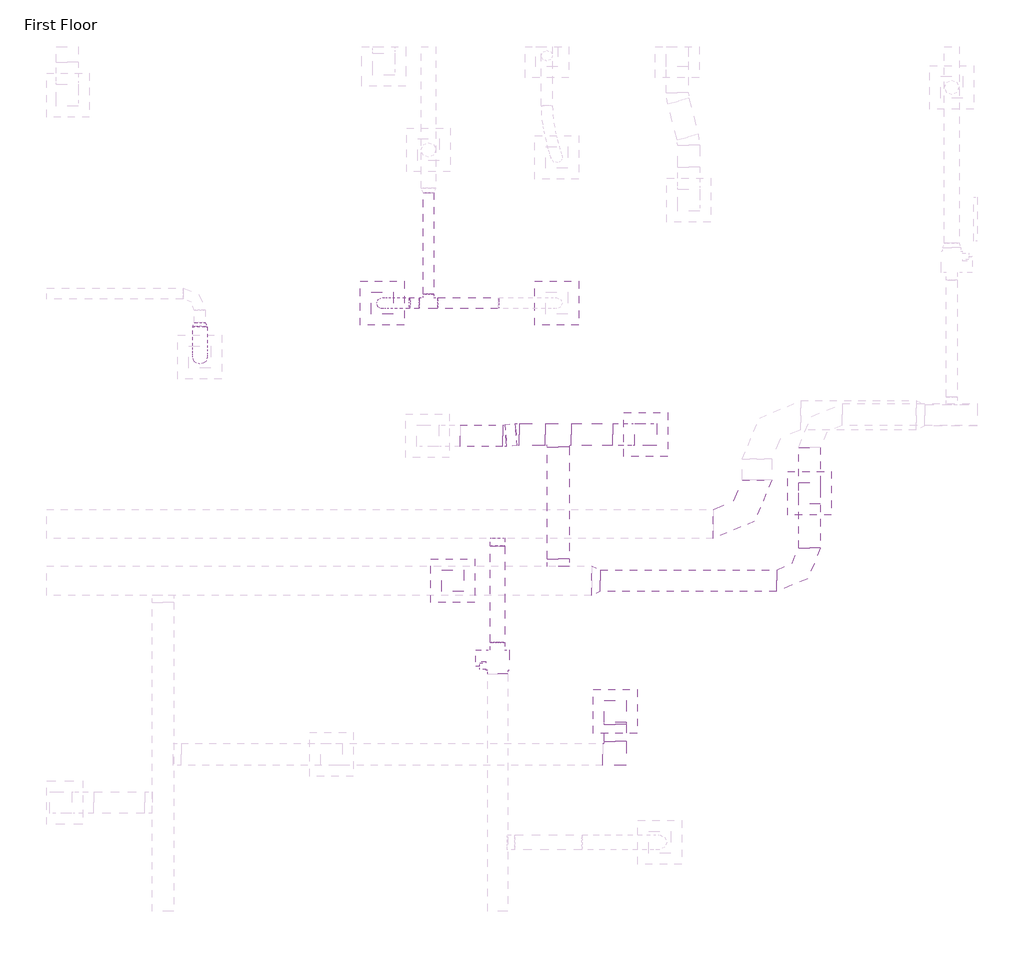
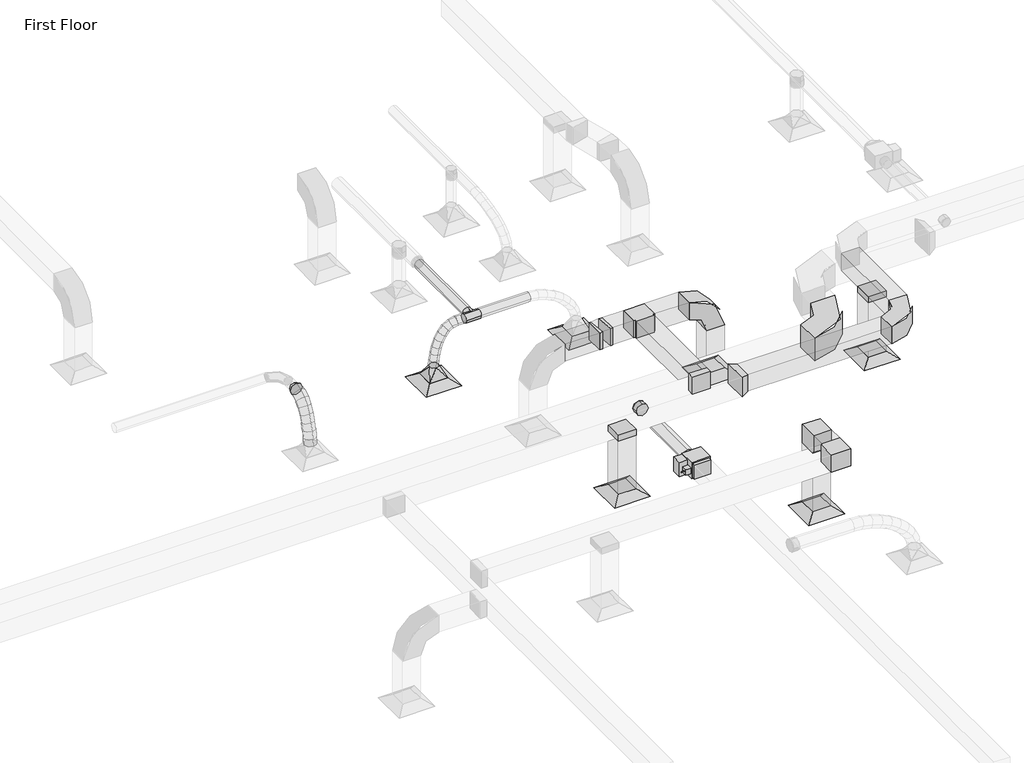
# One storey, part 18 of 61: 18 duct segments, 16 duct fittings, 6 air terminals, 1 proxy.
"""IFC4 building model written with IfcOpenShell, lengths in millimetres."""

from ifc_helpers import new_model, si_unit, point, frame, frame_2d, origin, place, context, project, spatial, polyline, circle_curve, ellipse_curve, trimmed, segment, composite_curve, outline, extrude, transform, mapped, element, save
from ifc_brep_helpers import plane_surface, cylinder_surface, advanced_brep
from components import m_exhaust_grill_er_600_x_600_face_300_x_300_connection_ff221211, m_vav_unit_single_duct_200_mm_f9143229, m_rectangular_elbow_mitered_standard_8eee5933, m_rectangular_elbow_radius_1_5_w_86011e9f, m_rectangular_elbow_radius_1_5_w_2e3e53bc, m_rectangular_elbow_radius_1_5_w_de0ab8f1, m_rectangular_takeoff_standard_c00386d1, m_rectangular_takeoff_standard_b44bfa45, m_rectangular_tee_standard_bf2a2b7f, m_rectangular_transition_angle_45_degree_daf29b35, m_rectangular_to_round_transition_angle_45_degree_8f201c83, m_round_takeoff_standard_2096653f, m_round_tee_standard_034acf2d, m_round_transition_angle_45_degree_3fc7b733

model = new_model("IFC4")

# Units and contexts
model_context = context("Model", 3, world=origin())
ifc_project = project(units=[si_unit("LENGTHUNIT", "METRE", prefix="MILLI")], contexts=[model_context])

# Site, building, storey
site = spatial("IfcSite", under=ifc_project)
building = spatial("IfcBuilding", under=site)
storey = spatial("IfcBuildingStorey", under=building, Name="First Floor", Elevation=0.0)

# Air terminals
placement = place(None, origin())
m_exhaust_grill_er_600_x_600_face_300_x_300_connection_shape = m_exhaust_grill_er_600_x_600_face_300_x_300_connection_ff221211(model_context)
element("IfcAirTerminal", 1, ObjectType="M_Return Register : RR-600 x 600 Face 300 x 300 Connection", at=placement, inside=storey, context=model_context, shape_type="MappedRepresentation", body=[
    mapped(m_exhaust_grill_er_600_x_600_face_300_x_300_connection_shape, transform((-21474.9055852, 8984.9326202, 2680.0), x_axis=(1.0, 0.0, 0.0), y_axis=(0.0, 1.0, 0.0), z_axis=(0.0, 0.0, 1.0))),
])
element("IfcAirTerminal", 2, ObjectType="M_Return Register : RR-600 x 600 Face 300 x 300 Connection", at=placement, inside=storey, context=model_context, shape_type="MappedRepresentation", body=[
    mapped(m_exhaust_grill_er_600_x_600_face_300_x_300_connection_shape, transform((-23700.6404274, 10777.8718477, 2680.0), x_axis=(1.0, 0.0, 0.0), y_axis=(0.0, 1.0, 0.0), z_axis=(0.0, 0.0, 1.0))),
])
element("IfcAirTerminal", 3, ObjectType="M_Return Register : RR-600 x 600 Face 300 x 300 Connection", at=placement, inside=storey, context=model_context, shape_type="MappedRepresentation", body=[
    mapped(m_exhaust_grill_er_600_x_600_face_300_x_300_connection_shape, transform((-18815.882948, 11976.0938982, 2680.0), x_axis=(1.0, 0.0, 0.0), y_axis=(0.0, 1.0, 0.0), z_axis=(0.0, 0.0, 1.0))),
])
element("IfcAirTerminal", 4, ObjectType="M_Return Register : RR-600 x 600 Face 300 x 300 Connection", at=placement, inside=storey, context=model_context, shape_type="MappedRepresentation", body=[
    mapped(m_exhaust_grill_er_600_x_600_face_300_x_300_connection_shape, transform((-21057.7574599, 12781.3592208, 2680.0), x_axis=(1.0, 0.0, 0.0), y_axis=(0.0, 1.0, 0.0), z_axis=(0.0, 0.0, 1.0))),
])
element("IfcAirTerminal", 5, ObjectType="M_Supply Diffuser : SD-600 x 600 Face 300 x 300 Connection", at=placement, inside=storey, context=model_context, shape_type="MappedRepresentation", body=[
    mapped(m_exhaust_grill_er_600_x_600_face_300_x_300_connection_shape, transform((-22276.7081761, 14579.6926206, 2680.0), x_axis=(1.0, 0.0, 0.0), y_axis=(0.0, 1.0, 0.0), z_axis=(0.0, 0.0, 1.0))),
])
element("IfcAirTerminal", 6, ObjectType="M_Supply Diffuser : SD-600 x 600 Face 300 x 300 Connection", at=placement, inside=storey, context=model_context, shape_type="MappedRepresentation", body=[
    mapped(m_exhaust_grill_er_600_x_600_face_300_x_300_connection_shape, transform((-24667.9863708, 14579.6926206, 2680.0), x_axis=(1.0, 0.0, 0.0), y_axis=(0.0, 1.0, 0.0), z_axis=(0.0, 0.0, 1.0))),
])

# Proxy
m_vav_unit_single_duct_200_mm_shape = m_vav_unit_single_duct_200_mm_f9143229(model_context)
element("IfcBuildingElementProxy", 7, Name="M_VAV Unit - Single Duct : 200 mm", ObjectType="M_VAV Unit - Single Duct : 200 mm", at=placement, inside=storey, context=model_context, shape_type="MappedRepresentation", body=[
    mapped(m_vav_unit_single_duct_200_mm_shape, transform((-23088.1633517, 9828.6813015, 3500.05), x_axis=(0.0, -1.0, 0.0), y_axis=(1.0, 0.0, 0.0), z_axis=(0.0, 0.0, 1.0))),
])

# Duct fittings
m_rectangular_elbow_mitered_standard_shape = m_rectangular_elbow_mitered_standard_8eee5933(model_context)
element("IfcDuctFitting", 8, ObjectType="M_Rectangular Elbow - Mitered : Standard", at=placement, inside=storey, context=model_context, shape_type="MappedRepresentation", body=[
    mapped(m_rectangular_elbow_mitered_standard_shape, transform((-21474.9055852, 8984.9326202, 4000.0), x_axis=(0.0, 0.0, 1.0), y_axis=(0.0, -1.0, 0.0), z_axis=(1.0, 0.0, 0.0))),
])
element("IfcDuctFitting", 9, ObjectType="M_Rectangular Elbow - Mitered : Standard", at=placement, inside=storey, context=model_context, shape_type="MappedRepresentation", body=[
    mapped(m_rectangular_elbow_mitered_standard_shape, transform((-21474.9055852, 8398.5997354, 4000.0), x_axis=(1.0, 0.0, 0.0), y_axis=(0.0, 1.0, 0.0), z_axis=(0.0, 0.0, 1.0))),
])
m_rectangular_elbow_radius_1_5_w_shape = m_rectangular_elbow_radius_1_5_w_86011e9f(model_context)
element("IfcDuctFitting", 10, ObjectType="M_Rectangular Elbow - Radius : 1.5 W", at=placement, inside=storey, context=model_context, shape_type="MappedRepresentation", body=[
    mapped(m_rectangular_elbow_radius_1_5_w_shape, transform((-21057.7574599, 12781.3592208, 4000.0), x_axis=(0.0, 0.0, 1.0), y_axis=(-1.0, 0.0, 0.0), z_axis=(0.0, -1.0, 0.0))),
])
element("IfcDuctFitting", 11, ObjectType="M_Rectangular Elbow - Radius : 1.5 W", at=placement, inside=storey, context=model_context, shape_type="MappedRepresentation", body=[
    mapped(m_rectangular_elbow_radius_1_5_w_shape, transform((-18815.882948, 10777.8718477, 4000.0), x_axis=(1.0, 0.0, 0.0), y_axis=(0.0, 1.0, 0.0), z_axis=(0.0, 0.0, 1.0))),
])
m_rectangular_elbow_radius_1_5_w_2_shape = m_rectangular_elbow_radius_1_5_w_2e3e53bc(model_context)
element("IfcDuctFitting", 12, ObjectType="M_Rectangular Elbow - Radius : 1.5 W", at=placement, inside=storey, context=model_context, shape_type="MappedRepresentation", body=[
    mapped(m_rectangular_elbow_radius_1_5_w_2_shape, transform((-19535.3729051, 11555.6774916, 3609.5), x_axis=(1.0, 0.0, 0.0), y_axis=(0.0, 1.0, 0.0), z_axis=(0.0, 0.0, 1.0))),
])
m_rectangular_elbow_radius_1_5_w_3_shape = m_rectangular_elbow_radius_1_5_w_de0ab8f1(model_context)
element("IfcDuctFitting", 13, ObjectType="M_Rectangular Elbow - Radius : 1.5 W", at=placement, inside=storey, context=model_context, shape_type="MappedRepresentation", body=[
    mapped(m_rectangular_elbow_radius_1_5_w_3_shape, transform((-22813.7574599, 12781.3592208, 4000.0), x_axis=(-1.0, 0.0, 0.0), y_axis=(0.0, -1.0, 0.0), z_axis=(0.0, 0.0, 1.0))),
])
element("IfcDuctFitting", 14, ObjectType="M_Rectangular Elbow - Radius : 1.5 W", at=placement, inside=storey, context=model_context, shape_type="MappedRepresentation", body=[
    mapped(m_rectangular_elbow_radius_1_5_w_3_shape, transform((-22997.1293178, 12763.224946, 4000.0), x_axis=(1.0, 0.0, 0.0), y_axis=(0.0, 1.0, 0.0), z_axis=(0.0, 0.0, 1.0))),
])
m_rectangular_takeoff_standard_shape = m_rectangular_takeoff_standard_c00386d1(model_context)
element("IfcDuctFitting", 15, ObjectType="M_Rectangular Takeoff : Standard", at=placement, inside=storey, context=model_context, shape_type="MappedRepresentation", body=[
    mapped(m_rectangular_takeoff_standard_shape, transform((-23700.6404274, 10777.8718477, 3825.0), x_axis=(0.0, 0.0, -1.0), y_axis=(0.0, 1.0, 0.0), z_axis=(1.0, 0.0, 0.0))),
])
element("IfcDuctFitting", 16, ObjectType="M_Rectangular Takeoff : Standard", at=placement, inside=storey, context=model_context, shape_type="MappedRepresentation", body=[
    mapped(m_rectangular_takeoff_standard_shape, transform((-18815.882948, 11976.0938982, 3850.0), x_axis=(0.0, 0.0, -1.0), y_axis=(-1.0, 0.0, 0.0), z_axis=(0.0, 1.0, 0.0))),
])
m_rectangular_takeoff_standard_2_shape = m_rectangular_takeoff_standard_b44bfa45(model_context)
element("IfcDuctFitting", 17, ObjectType="M_Rectangular Takeoff : Standard", at=placement, inside=storey, context=model_context, shape_type="MappedRepresentation", body=[
    mapped(m_rectangular_takeoff_standard_2_shape, transform((-22257.7574599, 10977.8718477, 4000.0), x_axis=(0.0, 1.0, 0.0), y_axis=(1.0, 0.0, 0.0), z_axis=(0.0, 0.0, -1.0))),
])
m_rectangular_tee_standard_shape = m_rectangular_tee_standard_bf2a2b7f(model_context)
element("IfcDuctFitting", 18, ObjectType="M_Rectangular Tee : Standard", at=placement, inside=storey, context=model_context, shape_type="MappedRepresentation", body=[
    mapped(m_rectangular_tee_standard_shape, transform((-22257.7574599, 12781.3592208, 4000.0), x_axis=(1.0, 0.0, 0.0), y_axis=(0.0, 1.0, 0.0), z_axis=(0.0, 0.0, 1.0))),
])
m_rectangular_transition_angle_45_degree_shape = m_rectangular_transition_angle_45_degree_daf29b35(model_context)
element("IfcDuctFitting", 19, ObjectType="M_Rectangular Transition - Angle : 45 Degree", at=placement, inside=storey, context=model_context, shape_type="MappedRepresentation", body=[
    mapped(m_rectangular_transition_angle_45_degree_shape, transform((-21800.1562686, 10777.8718477, 4000.0), x_axis=(1.0, 0.0, 0.0), y_axis=(0.0, 1.0, 0.0), z_axis=(0.0, 0.0, 1.0))),
])
m_rectangular_to_round_transition_angle_45_degree_shape = m_rectangular_to_round_transition_angle_45_degree_8f201c83(model_context)
element("IfcDuctFitting", 20, ObjectType="M_Rectangular to Round Transition - Angle : 45 Degree", at=placement, inside=storey, context=model_context, shape_type="MappedRepresentation", body=[
    mapped(m_rectangular_to_round_transition_angle_45_degree_shape, transform((-24667.9863708, 14579.6926206, 2781.6), x_axis=(0.0, 0.0, 1.0), y_axis=(1.0, 0.0, 0.0), z_axis=(0.0, 1.0, 0.0))),
])
m_round_takeoff_standard_shape = m_round_takeoff_standard_2096653f(model_context)
element("IfcDuctFitting", 21, ObjectType="M_Round Takeoff : Standard", at=placement, inside=storey, context=model_context, shape_type="MappedRepresentation", body=[
    mapped(m_round_takeoff_standard_shape, transform((-23087.5133517, 11355.6774916, 3634.5969238), x_axis=(0.0, -0.9999999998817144, -1.5380865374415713e-05), y_axis=(-0.9999999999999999, 0.0, 0.0), z_axis=(0.0, 1.538086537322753e-05, -0.9999999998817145))),
])
m_round_tee_standard_shape = m_round_tee_standard_034acf2d(model_context)
element("IfcDuctFitting", 22, ObjectType="M_Round Tee : Standard", at=placement, inside=storey, context=model_context, shape_type="MappedRepresentation", body=[
    mapped(m_round_tee_standard_shape, transform((-24034.890372, 14579.6926206, 3619.1), x_axis=(-1.0, 0.0, 0.0), y_axis=(0.0, -1.0, 0.0), z_axis=(0.0, 0.0, 1.0))),
])
m_round_transition_angle_45_degree_shape = m_round_transition_angle_45_degree_3fc7b733(model_context)
element("IfcDuctFitting", 23, ObjectType="M_Round Transition - Angle : 45 Degree", at=placement, inside=storey, context=model_context, shape_type="MappedRepresentation", body=[
    mapped(m_round_transition_angle_45_degree_shape, transform((-27166.0530571, 14311.7643739, 3619.1), x_axis=(0.0, -1.0, 0.0), y_axis=(1.0, 0.0, 0.0), z_axis=(0.0, 0.0, 1.0))),
])

# Duct segments
element("IfcDuctSegment", 24, ObjectType="Flex - Round", at=placement, inside=storey, context=model_context, shape_type="AdvancedBrep", body=[
    advanced_brep(
    [(-24299.890372, 14504.6926206, 3619.1), (-24284.9016136, 14579.6926206, 3545.6130139), (-24299.890372, 14654.6926206, 3619.1), (-24314.8791303, 14579.6926206, 3692.5869861), (-24387.7327541, 14504.6926206, 3601.1832462), (-24358.6908945, 14579.6926206, 3530.5625981), (-24387.7327541, 14654.6926206, 3601.1832462), (-24416.7746137, 14579.6926206, 3671.8038943), (-24667.9863708, 14504.6926206, 2962.6660172), (-24742.8725962, 14579.6926206, 2966.7955752), (-24667.9863708, 14654.6926206, 2962.6660172), (-24593.1001454, 14579.6926206, 2958.5364591), (-24463.2391375, 14504.6926206, 3551.8101121), (-24413.1766817, 14579.6926206, 3494.9346954), (-24463.2391375, 14654.6926206, 3551.8101121), (-24513.3015932, 14579.6926206, 3608.6855288), (-24526.6017525, 14504.6926206, 3477.5462887), (-24464.6752729, 14579.6926206, 3434.5760394), (-24526.6017525, 14654.6926206, 3477.5462887), (-24588.5282321, 14579.6926206, 3520.5165379), (-24578.0128298, 14504.6926206, 3384.957467), (-24509.8218282, 14579.6926206, 3353.2693138), (-24578.0128298, 14654.6926206, 3384.957467), (-24646.2038314, 14579.6926206, 3416.6456202), (-24617.6645997, 14504.6926206, 3280.609338), (-24546.0600501, 14579.6926206, 3257.9043234), (-24617.6645997, 14654.6926206, 3280.609338), (-24689.2691493, 14579.6926206, 3303.3143526), (-24645.7492929, 14504.6926206, 3171.0675927), (-24572.1883123, 14579.6926206, 3155.9934562), (-24645.7492929, 14654.6926206, 3171.0675927), (-24719.3102735, 14579.6926206, 3186.1417292), (-24662.4591398, 14504.6926206, 3062.8979221), (-24587.7757932, 14579.6926206, 3055.089319), (-24662.4591398, 14654.6926206, 3062.8979221), (-24737.1424863, 14579.6926206, 3070.7065252)],
    [
        (0, 1, circle_curve(frame((-24299.890372, 14579.6926206, 3619.1), z_axis=(0.9798264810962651, 0.0, 0.19985011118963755), x_axis=(0.0, -1.0, 0.0)), 75.0)),
        (1, 2, circle_curve(frame((-24299.890372, 14579.6926206, 3619.1), z_axis=(0.9798264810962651, 0.0, 0.19985011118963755), x_axis=(0.0, -1.0, 0.0)), 75.0)),
        (2, 3, circle_curve(frame((-24299.890372, 14579.6926206, 3619.1), z_axis=(0.9798264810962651, 0.0, 0.19985011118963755), x_axis=(0.0, -1.0, 0.0)), 75.0)),
        (3, 0, circle_curve(frame((-24299.890372, 14579.6926206, 3619.1), z_axis=(0.9798264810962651, 0.0, 0.19985011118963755), x_axis=(0.0, -1.0, 0.0)), 75.0)),
        (0, 4),
        (4, 5, ellipse_curve(frame((-24387.7327541, 14579.6926206, 3601.1832462), z_axis=(0.9248496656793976, 0.0, 0.3803328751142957), x_axis=(0.38033287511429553, 0.0, -0.9248496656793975)), 76.3590568, 75.0)),
        (5, 1),
        (5, 6, ellipse_curve(frame((-24387.7327541, 14579.6926206, 3601.1832462), z_axis=(0.9248496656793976, 0.0, 0.3803328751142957), x_axis=(0.38033287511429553, 0.0, -0.9248496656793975)), 76.3590568, 75.0)),
        (6, 2),
        (6, 7, ellipse_curve(frame((-24387.7327541, 14579.6926206, 3601.1832462), z_axis=(0.9248496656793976, 0.0, 0.3803328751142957), x_axis=(0.38033287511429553, 0.0, -0.9248496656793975)), 76.3590568, 75.0)),
        (7, 3),
        (7, 4, ellipse_curve(frame((-24387.7327541, 14579.6926206, 3601.1832462), z_axis=(0.9248496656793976, 0.0, 0.3803328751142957), x_axis=(0.38033287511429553, 0.0, -0.9248496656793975)), 76.3590568, 75.0)),
        (8, 9, circle_curve(frame((-24667.9863708, 14579.6926206, 2962.6660172), z_axis=(-0.055060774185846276, 0.0, -0.9984830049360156), x_axis=(0.0, -1.0, 0.0)), 75.0)),
        (9, 10, circle_curve(frame((-24667.9863708, 14579.6926206, 2962.6660172), z_axis=(-0.055060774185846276, 0.0, -0.9984830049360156), x_axis=(0.0, -1.0, 0.0)), 75.0)),
        (10, 11, circle_curve(frame((-24667.9863708, 14579.6926206, 2962.6660172), z_axis=(-0.055060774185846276, 0.0, -0.9984830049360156), x_axis=(0.0, -1.0, 0.0)), 75.0)),
        (11, 8, circle_curve(frame((-24667.9863708, 14579.6926206, 2962.6660172), z_axis=(-0.055060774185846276, 0.0, -0.9984830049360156), x_axis=(0.0, -1.0, 0.0)), 75.0)),
        (4, 12),
        (12, 13, ellipse_curve(frame((-24463.2391375, 14579.6926206, 3551.8101121), z_axis=(0.7506343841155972, 0.0, 0.6607178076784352), x_axis=(0.6607178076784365, 0.0, -0.7506343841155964)), 75.7697994, 75.0)),
        (13, 5),
        (13, 14, ellipse_curve(frame((-24463.2391375, 14579.6926206, 3551.8101121), z_axis=(0.7506343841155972, 0.0, 0.6607178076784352), x_axis=(0.6607178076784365, 0.0, -0.7506343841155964)), 75.7697994, 75.0)),
        (14, 6),
        (14, 15, ellipse_curve(frame((-24463.2391375, 14579.6926206, 3551.8101121), z_axis=(0.7506343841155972, 0.0, 0.6607178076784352), x_axis=(0.6607178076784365, 0.0, -0.7506343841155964)), 75.7697994, 75.0)),
        (15, 7),
        (15, 12, ellipse_curve(frame((-24463.2391375, 14579.6926206, 3551.8101121), z_axis=(0.7506343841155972, 0.0, 0.6607178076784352), x_axis=(0.6607178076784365, 0.0, -0.7506343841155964)), 75.7697994, 75.0)),
        (12, 16),
        (16, 17, ellipse_curve(frame((-24526.6017525, 14579.6926206, 3477.5462887), z_axis=(0.5700892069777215, 0.0, 0.8215827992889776), x_axis=(0.8215827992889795, 0.0, -0.570089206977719)), 75.3746058, 75.0)),
        (17, 13),
        (17, 18, ellipse_curve(frame((-24526.6017525, 14579.6926206, 3477.5462887), z_axis=(0.5700892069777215, 0.0, 0.8215827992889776), x_axis=(0.8215827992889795, 0.0, -0.570089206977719)), 75.3746058, 75.0)),
        (18, 14),
        (18, 19, ellipse_curve(frame((-24526.6017525, 14579.6926206, 3477.5462887), z_axis=(0.5700892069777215, 0.0, 0.8215827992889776), x_axis=(0.8215827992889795, 0.0, -0.570089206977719)), 75.3746058, 75.0)),
        (19, 15),
        (19, 16, ellipse_curve(frame((-24526.6017525, 14579.6926206, 3477.5462887), z_axis=(0.5700892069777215, 0.0, 0.8215827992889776), x_axis=(0.8215827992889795, 0.0, -0.570089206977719)), 75.3746058, 75.0)),
        (16, 20),
        (20, 21, ellipse_curve(frame((-24578.0128298, 14579.6926206, 3384.957467), z_axis=(0.42141811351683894, 0.0, 0.9068664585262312), x_axis=(0.9068664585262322, 0.0, -0.42141811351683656)), 75.1940939, 75.0)),
        (21, 17),
        (21, 22, ellipse_curve(frame((-24578.0128298, 14579.6926206, 3384.957467), z_axis=(0.42141811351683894, 0.0, 0.9068664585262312), x_axis=(0.9068664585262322, 0.0, -0.42141811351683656)), 75.1940939, 75.0)),
        (22, 18),
        (22, 23, ellipse_curve(frame((-24578.0128298, 14579.6926206, 3384.957467), z_axis=(0.42141811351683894, 0.0, 0.9068664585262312), x_axis=(0.9068664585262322, 0.0, -0.42141811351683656)), 75.1940939, 75.0)),
        (23, 19),
        (23, 20, ellipse_curve(frame((-24578.0128298, 14579.6926206, 3384.957467), z_axis=(0.42141811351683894, 0.0, 0.9068664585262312), x_axis=(0.9068664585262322, 0.0, -0.42141811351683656)), 75.1940939, 75.0)),
        (20, 24),
        (24, 25, ellipse_curve(frame((-24617.6645997, 14579.6926206, 3280.609338), z_axis=(0.30225756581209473, 0.0, 0.9532262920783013), x_axis=(0.9532262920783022, 0.0, -0.3022575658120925)), 75.1181018, 75.0)),
        (25, 21),
        (25, 26, ellipse_curve(frame((-24617.6645997, 14579.6926206, 3280.609338), z_axis=(0.30225756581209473, 0.0, 0.9532262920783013), x_axis=(0.9532262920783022, 0.0, -0.3022575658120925)), 75.1181018, 75.0)),
        (26, 22),
        (26, 27, ellipse_curve(frame((-24617.6645997, 14579.6926206, 3280.609338), z_axis=(0.30225756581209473, 0.0, 0.9532262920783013), x_axis=(0.9532262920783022, 0.0, -0.3022575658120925)), 75.1181018, 75.0)),
        (27, 23),
        (27, 24, ellipse_curve(frame((-24617.6645997, 14579.6926206, 3280.609338), z_axis=(0.30225756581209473, 0.0, 0.9532262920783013), x_axis=(0.9532262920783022, 0.0, -0.3022575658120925)), 75.1181018, 75.0)),
        (24, 28),
        (28, 29, ellipse_curve(frame((-24645.7492929, 14579.6926206, 3171.0675927), z_axis=(0.2007486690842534, 0.0, 0.9796427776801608), x_axis=(0.9796427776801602, 0.0, -0.20074866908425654)), 75.0895962, 75.0)),
        (29, 25),
        (29, 30, ellipse_curve(frame((-24645.7492929, 14579.6926206, 3171.0675927), z_axis=(0.2007486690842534, 0.0, 0.9796427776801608), x_axis=(0.9796427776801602, 0.0, -0.20074866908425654)), 75.0895962, 75.0)),
        (30, 26),
        (30, 31, ellipse_curve(frame((-24645.7492929, 14579.6926206, 3171.0675927), z_axis=(0.2007486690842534, 0.0, 0.9796427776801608), x_axis=(0.9796427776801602, 0.0, -0.20074866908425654)), 75.0895962, 75.0)),
        (31, 27),
        (31, 28, ellipse_curve(frame((-24645.7492929, 14579.6926206, 3171.0675927), z_axis=(0.2007486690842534, 0.0, 0.9796427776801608), x_axis=(0.9796427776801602, 0.0, -0.20074866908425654)), 75.0895962, 75.0)),
        (28, 32),
        (32, 33, ellipse_curve(frame((-24662.4591398, 14579.6926206, 3062.8979221), z_axis=(0.10398928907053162, 0.0, 0.994578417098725), x_axis=(0.994578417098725, 0.0, -0.10398928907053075)), 75.0904557, 75.0)),
        (33, 29),
        (33, 34, ellipse_curve(frame((-24662.4591398, 14579.6926206, 3062.8979221), z_axis=(0.10398928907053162, 0.0, 0.994578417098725), x_axis=(0.994578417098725, 0.0, -0.10398928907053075)), 75.0904557, 75.0)),
        (34, 30),
        (34, 35, ellipse_curve(frame((-24662.4591398, 14579.6926206, 3062.8979221), z_axis=(0.10398928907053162, 0.0, 0.994578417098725), x_axis=(0.994578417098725, 0.0, -0.10398928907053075)), 75.0904557, 75.0)),
        (35, 31),
        (35, 32, ellipse_curve(frame((-24662.4591398, 14579.6926206, 3062.8979221), z_axis=(0.10398928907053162, 0.0, 0.994578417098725), x_axis=(0.994578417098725, 0.0, -0.10398928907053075)), 75.0904557, 75.0)),
        (32, 8),
        (11, 33),
        (10, 34),
        (9, 35),
    ],
    [
        plane_surface(frame((-24299.890372, 14654.6926206, 3619.1), z_axis=(0.979826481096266, 0.0, 0.19985011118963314), x_axis=(0.19985011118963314, 0.0, -0.979826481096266))),
        cylinder_surface(frame((-24299.890372, 14579.6926206, 3619.1), z_axis=(0.9798264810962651, 0.0, 0.19985011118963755), x_axis=(0.0, -1.0, 0.0)), 75.0),
        plane_surface(frame((-24667.9863708, 14654.6926206, 2962.6660172), z_axis=(-0.055060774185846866, 0.0, -0.9984830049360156), x_axis=(0.9984830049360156, 0.0, -0.055060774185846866))),
        cylinder_surface(frame((-24387.7327541, 14579.6926206, 3601.1832462), z_axis=(0.8369514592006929, 0.0, 0.5472771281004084), x_axis=(0.0, -1.0, 0.0)), 75.0),
        cylinder_surface(frame((-24463.2391375, 14579.6926206, 3551.8101121), z_axis=(0.6490648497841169, 0.0, 0.760733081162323), x_axis=(0.0, -1.0, 0.0)), 75.0),
        cylinder_surface(frame((-24526.6017525, 14579.6926206, 3477.5462887), z_axis=(0.4854469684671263, 0.0, 0.8742661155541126), x_axis=(0.0, -1.0, 0.0)), 75.0),
        cylinder_surface(frame((-24578.0128298, 14579.6926206, 3384.957467), z_axis=(0.3552136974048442, 0.0, 0.9347851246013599), x_axis=(0.0, -1.0, 0.0)), 75.0),
        cylinder_surface(frame((-24617.6645997, 14579.6926206, 3280.609338), z_axis=(0.2483510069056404, 0.0, 0.9686701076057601), x_axis=(0.0, -1.0, 0.0)), 75.0),
        cylinder_surface(frame((-24645.7492929, 14579.6926206, 3171.0675927), z_axis=(0.1526672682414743, 0.0, 0.9882776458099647), x_axis=(0.0, -1.0, 0.0)), 75.0),
        cylinder_surface(frame((-24662.4591398, 14579.6926206, 3062.8979221), z_axis=(0.055060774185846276, 0.0, 0.9984830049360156), x_axis=(0.0, -1.0, 0.0)), 75.0),
    ],
    [
        (0, [[1, 2, 3, 4]]),
        (1, [[-1, 5, 6, 7]]),
        (1, [[-2, -7, 8, 9]]),
        (1, [[-3, -9, 10, 11]]),
        (1, [[-4, -11, 12, -5]]),
        (2, [[13, 14, 15, 16]]),
        (3, [[-6, 17, 18, 19]]),
        (3, [[-8, -19, 20, 21]]),
        (3, [[-10, -21, 22, 23]]),
        (3, [[-12, -23, 24, -17]]),
        (4, [[-18, 25, 26, 27]]),
        (4, [[-20, -27, 28, 29]]),
        (4, [[-22, -29, 30, 31]]),
        (4, [[-24, -31, 32, -25]]),
        (5, [[-26, 33, 34, 35]]),
        (5, [[-28, -35, 36, 37]]),
        (5, [[-30, -37, 38, 39]]),
        (5, [[-32, -39, 40, -33]]),
        (6, [[-34, 41, 42, 43]]),
        (6, [[-36, -43, 44, 45]]),
        (6, [[-38, -45, 46, 47]]),
        (6, [[-40, -47, 48, -41]]),
        (7, [[-42, 49, 50, 51]]),
        (7, [[-44, -51, 52, 53]]),
        (7, [[-46, -53, 54, 55]]),
        (7, [[-48, -55, 56, -49]]),
        (8, [[-50, 57, 58, 59]]),
        (8, [[-52, -59, 60, 61]]),
        (8, [[-54, -61, 62, 63]]),
        (8, [[-56, -63, 64, -57]]),
        (9, [[-58, 65, -16, 66]]),
        (9, [[-60, -66, -15, 67]]),
        (9, [[-62, -67, -14, 68]]),
        (9, [[-64, -68, -13, -65]]),
    ],
),
])
element("IfcDuctSegment", 25, ObjectType="Flex - Round", at=placement, inside=storey, context=model_context, shape_type="AdvancedBrep", body=[
    advanced_brep(
    [(-27066.0530571, 14251.4090348, 3619.1), (-27166.0530571, 14271.2382666, 3521.0857073), (-27266.0530571, 14251.4090348, 3619.1), (-27166.0530571, 14231.579803, 3717.1142927), (-27066.0530571, 14154.9169021, 3599.5787158), (-27166.0530571, 14193.2843814, 3505.3148884), (-27266.0530571, 14154.9169021, 3599.5787158), (-27166.0530571, 14116.5494228, 3693.8425431), (-27066.0530571, 13843.104531, 2902.3106781), (-27166.0530571, 13743.2671283, 2908.0109427), (-27266.0530571, 13843.104531, 2902.3106781), (-27166.0530571, 13942.9419337, 2896.6104135), (-27066.0530571, 14071.6065276, 3545.7699779), (-27166.0530571, 14137.8207012, 3469.4918514), (-27266.0530571, 14071.6065276, 3545.7699779), (-27166.0530571, 14005.392354, 3622.0481045), (-27066.0530571, 14001.3804707, 3464.8064589), (-27166.0530571, 14083.4587778, 3406.8180689), (-27266.0530571, 14001.3804707, 3464.8064589), (-27166.0530571, 13919.3021636, 3522.7948489), (-27066.0530571, 13944.1412909, 3363.820831), (-27166.0530571, 14034.7014488, 3320.7967545), (-27266.0530571, 13944.1412909, 3363.820831), (-27166.0530571, 13853.581133, 3406.8449075), (-27066.0530571, 13899.7915476, 3249.9457666), (-27166.0530571, 13995.0352392, 3218.9474124), (-27266.0530571, 13899.7915476, 3249.9457666), (-27166.0530571, 13804.547856, 3280.9441209), (-27066.0530571, 13868.2338002, 3130.3139381), (-27166.0530571, 13966.1992003, 3109.6332712), (-27266.0530571, 13868.2338002, 3130.3139381), (-27166.0530571, 13770.2684001, 3150.994605), (-27066.0530571, 13849.3706082, 3012.0580178), (-27166.0530571, 13948.919487, 3001.3043941), (-27266.0530571, 13849.3706082, 3012.0580178), (-27166.0530571, 13749.8217294, 3022.8116415)],
    [
        (0, 1, circle_curve(frame((-27166.0530571, 14251.4090348, 3619.1), z_axis=(0.0, 0.9801429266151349, 0.19829231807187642), x_axis=(1.0, 0.0, 0.0)), 100.0)),
        (1, 2, circle_curve(frame((-27166.0530571, 14251.4090348, 3619.1), z_axis=(0.0, 0.9801429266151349, 0.19829231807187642), x_axis=(1.0, 0.0, 0.0)), 100.0)),
        (2, 3, circle_curve(frame((-27166.0530571, 14251.4090348, 3619.1), z_axis=(0.0, 0.9801429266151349, 0.19829231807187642), x_axis=(1.0, 0.0, 0.0)), 100.0)),
        (3, 0, circle_curve(frame((-27166.0530571, 14251.4090348, 3619.1), z_axis=(0.0, 0.9801429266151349, 0.19829231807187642), x_axis=(1.0, 0.0, 0.0)), 100.0)),
        (0, 4),
        (4, 5, ellipse_curve(frame((-27166.0530571, 14154.9169021, 3599.5787158), z_axis=(0.0, 0.9262169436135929, 0.37699094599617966), x_axis=(0.0, 0.37699094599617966, -0.9262169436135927)), 101.7729464, 100.0)),
        (5, 1),
        (5, 6, ellipse_curve(frame((-27166.0530571, 14154.9169021, 3599.5787158), z_axis=(0.0, 0.9262169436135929, 0.37699094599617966), x_axis=(0.0, 0.37699094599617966, -0.9262169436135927)), 101.7729464, 100.0)),
        (6, 2),
        (6, 7, ellipse_curve(frame((-27166.0530571, 14154.9169021, 3599.5787158), z_axis=(0.0, 0.9262169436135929, 0.37699094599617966), x_axis=(0.0, 0.37699094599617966, -0.9262169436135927)), 101.7729464, 100.0)),
        (7, 3),
        (7, 4, ellipse_curve(frame((-27166.0530571, 14154.9169021, 3599.5787158), z_axis=(0.0, 0.9262169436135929, 0.37699094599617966), x_axis=(0.0, 0.37699094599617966, -0.9262169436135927)), 101.7729464, 100.0)),
        (8, 9, circle_curve(frame((-27166.0530571, 13843.104531, 2902.3106781), z_axis=(0.0, -0.05700264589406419, -0.9983740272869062), x_axis=(1.0, 0.0, 0.0)), 100.0)),
        (9, 10, circle_curve(frame((-27166.0530571, 13843.104531, 2902.3106781), z_axis=(0.0, -0.05700264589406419, -0.9983740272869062), x_axis=(1.0, 0.0, 0.0)), 100.0)),
        (10, 11, circle_curve(frame((-27166.0530571, 13843.104531, 2902.3106781), z_axis=(0.0, -0.05700264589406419, -0.9983740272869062), x_axis=(1.0, 0.0, 0.0)), 100.0)),
        (11, 8, circle_curve(frame((-27166.0530571, 13843.104531, 2902.3106781), z_axis=(0.0, -0.05700264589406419, -0.9983740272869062), x_axis=(1.0, 0.0, 0.0)), 100.0)),
        (4, 12),
        (12, 13, ellipse_curve(frame((-27166.0530571, 14071.6065276, 3545.7699779), z_axis=(0.0, 0.7551671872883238, 0.6555322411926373), x_axis=(0.0, 0.6555322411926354, -0.7551671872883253)), 101.0082639, 100.0)),
        (13, 5),
        (13, 14, ellipse_curve(frame((-27166.0530571, 14071.6065276, 3545.7699779), z_axis=(0.0, 0.7551671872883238, 0.6555322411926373), x_axis=(0.0, 0.6555322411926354, -0.7551671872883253)), 101.0082639, 100.0)),
        (14, 6),
        (14, 15, ellipse_curve(frame((-27166.0530571, 14071.6065276, 3545.7699779), z_axis=(0.0, 0.7551671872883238, 0.6555322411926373), x_axis=(0.0, 0.6555322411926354, -0.7551671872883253)), 101.0082639, 100.0)),
        (15, 7),
        (15, 12, ellipse_curve(frame((-27166.0530571, 14071.6065276, 3545.7699779), z_axis=(0.0, 0.7551671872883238, 0.6555322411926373), x_axis=(0.0, 0.6555322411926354, -0.7551671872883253)), 101.0082639, 100.0)),
        (12, 16),
        (16, 17, ellipse_curve(frame((-27166.0530571, 14001.3804707, 3464.8064589), z_axis=(0.0, 0.5770202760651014, 0.8167298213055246), x_axis=(0.0, 0.8167298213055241, -0.5770202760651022)), 100.4962779, 100.0)),
        (17, 13),
        (17, 18, ellipse_curve(frame((-27166.0530571, 14001.3804707, 3464.8064589), z_axis=(0.0, 0.5770202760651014, 0.8167298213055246), x_axis=(0.0, 0.8167298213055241, -0.5770202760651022)), 100.4962779, 100.0)),
        (18, 14),
        (18, 19, ellipse_curve(frame((-27166.0530571, 14001.3804707, 3464.8064589), z_axis=(0.0, 0.5770202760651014, 0.8167298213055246), x_axis=(0.0, 0.8167298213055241, -0.5770202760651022)), 100.4962779, 100.0)),
        (19, 15),
        (19, 16, ellipse_curve(frame((-27166.0530571, 14001.3804707, 3464.8064589), z_axis=(0.0, 0.5770202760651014, 0.8167298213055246), x_axis=(0.0, 0.8167298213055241, -0.5770202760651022)), 100.4962779, 100.0)),
        (16, 20),
        (20, 21, ellipse_curve(frame((-27166.0530571, 13944.1412909, 3363.820831), z_axis=(0.0, 0.4291219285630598, 0.9032465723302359), x_axis=(0.0, 0.9032465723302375, -0.42912192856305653)), 100.2607269, 100.0)),
        (21, 17),
        (21, 22, ellipse_curve(frame((-27166.0530571, 13944.1412909, 3363.820831), z_axis=(0.0, 0.4291219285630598, 0.9032465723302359), x_axis=(0.0, 0.9032465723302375, -0.42912192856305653)), 100.2607269, 100.0)),
        (22, 18),
        (22, 23, ellipse_curve(frame((-27166.0530571, 13944.1412909, 3363.820831), z_axis=(0.0, 0.4291219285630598, 0.9032465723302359), x_axis=(0.0, 0.9032465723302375, -0.42912192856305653)), 100.2607269, 100.0)),
        (23, 19),
        (23, 20, ellipse_curve(frame((-27166.0530571, 13944.1412909, 3363.820831), z_axis=(0.0, 0.4291219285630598, 0.9032465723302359), x_axis=(0.0, 0.9032465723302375, -0.42912192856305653)), 100.2607269, 100.0)),
        (20, 24),
        (24, 25, ellipse_curve(frame((-27166.0530571, 13899.7915476, 3249.9457666), z_axis=(0.0, 0.309484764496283, 0.9509044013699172), x_axis=(0.0, 0.9509044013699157, -0.30948476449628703)), 100.1611639, 100.0)),
        (25, 21),
        (25, 26, ellipse_curve(frame((-27166.0530571, 13899.7915476, 3249.9457666), z_axis=(0.0, 0.309484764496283, 0.9509044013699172), x_axis=(0.0, 0.9509044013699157, -0.30948476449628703)), 100.1611639, 100.0)),
        (26, 22),
        (26, 27, ellipse_curve(frame((-27166.0530571, 13899.7915476, 3249.9457666), z_axis=(0.0, 0.309484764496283, 0.9509044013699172), x_axis=(0.0, 0.9509044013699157, -0.30948476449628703)), 100.1611639, 100.0)),
        (27, 23),
        (27, 24, ellipse_curve(frame((-27166.0530571, 13899.7915476, 3249.9457666), z_axis=(0.0, 0.309484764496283, 0.9509044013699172), x_axis=(0.0, 0.9509044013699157, -0.30948476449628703)), 100.1611639, 100.0)),
        (24, 28),
        (28, 29, ellipse_curve(frame((-27166.0530571, 13868.2338002, 3130.3139381), z_axis=(0.0, 0.20654957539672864, 0.9784361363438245), x_axis=(0.0, 0.9784361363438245, -0.20654957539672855)), 100.1244706, 100.0)),
        (29, 25),
        (29, 30, ellipse_curve(frame((-27166.0530571, 13868.2338002, 3130.3139381), z_axis=(0.0, 0.20654957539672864, 0.9784361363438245), x_axis=(0.0, 0.9784361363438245, -0.20654957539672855)), 100.1244706, 100.0)),
        (30, 26),
        (30, 31, ellipse_curve(frame((-27166.0530571, 13868.2338002, 3130.3139381), z_axis=(0.0, 0.20654957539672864, 0.9784361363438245), x_axis=(0.0, 0.9784361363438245, -0.20654957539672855)), 100.1244706, 100.0)),
        (31, 27),
        (31, 28, ellipse_curve(frame((-27166.0530571, 13868.2338002, 3130.3139381), z_axis=(0.0, 0.20654957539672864, 0.9784361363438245), x_axis=(0.0, 0.9784361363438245, -0.20654957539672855)), 100.1244706, 100.0)),
        (28, 32),
        (32, 33, ellipse_curve(frame((-27166.0530571, 13849.3706082, 3012.0580178), z_axis=(0.0, 0.10739874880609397, 0.9942160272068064), x_axis=(0.0, 0.9942160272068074, -0.10739874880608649)), 100.1280165, 100.0)),
        (33, 29),
        (33, 34, ellipse_curve(frame((-27166.0530571, 13849.3706082, 3012.0580178), z_axis=(0.0, 0.10739874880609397, 0.9942160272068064), x_axis=(0.0, 0.9942160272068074, -0.10739874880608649)), 100.1280165, 100.0)),
        (34, 30),
        (34, 35, ellipse_curve(frame((-27166.0530571, 13849.3706082, 3012.0580178), z_axis=(0.0, 0.10739874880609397, 0.9942160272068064), x_axis=(0.0, 0.9942160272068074, -0.10739874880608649)), 100.1280165, 100.0)),
        (35, 31),
        (35, 32, ellipse_curve(frame((-27166.0530571, 13849.3706082, 3012.0580178), z_axis=(0.0, 0.10739874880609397, 0.9942160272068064), x_axis=(0.0, 0.9942160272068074, -0.10739874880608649)), 100.1280165, 100.0)),
        (32, 8),
        (11, 33),
        (10, 34),
        (9, 35),
    ],
    [
        plane_surface(frame((-27166.0530571, 14271.2382666, 3521.0857073), z_axis=(0.0, 0.980142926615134, 0.19829231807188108), x_axis=(1.0, 0.0, 0.0))),
        cylinder_surface(frame((-27166.0530571, 14251.4090348, 3619.1), z_axis=(0.0, 0.9801429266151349, 0.19829231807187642), x_axis=(1.0, 0.0, 0.0)), 100.0),
        plane_surface(frame((-27166.0530571, 13942.9419337, 2896.6104135), z_axis=(0.0, -0.05700264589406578, -0.998374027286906), x_axis=(1.0, 0.0, 0.0))),
        cylinder_surface(frame((-27166.0530571, 14154.9169021, 3599.5787158), z_axis=(0.0, 0.8400204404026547, 0.5425547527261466), x_axis=(1.0, 0.0, 0.0)), 100.0),
        cylinder_surface(frame((-27166.0530571, 14071.6065276, 3545.7699779), z_axis=(0.0, 0.6552377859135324, 0.7554226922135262), x_axis=(1.0, 0.0, 0.0)), 100.0),
        cylinder_surface(frame((-27166.0530571, 14001.3804707, 3464.8064589), z_axis=(0.0, 0.49310380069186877, 0.8699704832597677), x_axis=(1.0, 0.0, 0.0)), 100.0),
        cylinder_surface(frame((-27166.0530571, 13944.1412909, 3363.820831), z_axis=(0.0, 0.3629082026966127, 0.9318248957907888), x_axis=(1.0, 0.0, 0.0)), 100.0),
        cylinder_surface(frame((-27166.0530571, 13899.7915476, 3249.9457666), z_axis=(0.0, 0.2550653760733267, 0.9669238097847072), x_axis=(1.0, 0.0, 0.0)), 100.0),
        cylinder_surface(frame((-27166.0530571, 13868.2338002, 3130.3139381), z_axis=(0.0, 0.1575202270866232, 0.9875157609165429), x_axis=(1.0, 0.0, 0.0)), 100.0),
        cylinder_surface(frame((-27166.0530571, 13849.3706082, 3012.0580178), z_axis=(0.0, 0.05700264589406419, 0.9983740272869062), x_axis=(1.0, 0.0, 0.0)), 100.0),
    ],
    [
        (0, [[1, 2, 3, 4]]),
        (1, [[-1, 5, 6, 7]]),
        (1, [[-2, -7, 8, 9]]),
        (1, [[-3, -9, 10, 11]]),
        (1, [[-4, -11, 12, -5]]),
        (2, [[13, 14, 15, 16]]),
        (3, [[-6, 17, 18, 19]]),
        (3, [[-8, -19, 20, 21]]),
        (3, [[-10, -21, 22, 23]]),
        (3, [[-12, -23, 24, -17]]),
        (4, [[-18, 25, 26, 27]]),
        (4, [[-20, -27, 28, 29]]),
        (4, [[-22, -29, 30, 31]]),
        (4, [[-24, -31, 32, -25]]),
        (5, [[-26, 33, 34, 35]]),
        (5, [[-28, -35, 36, 37]]),
        (5, [[-30, -37, 38, 39]]),
        (5, [[-32, -39, 40, -33]]),
        (6, [[-34, 41, 42, 43]]),
        (6, [[-36, -43, 44, 45]]),
        (6, [[-38, -45, 46, 47]]),
        (6, [[-40, -47, 48, -41]]),
        (7, [[-42, 49, 50, 51]]),
        (7, [[-44, -51, 52, 53]]),
        (7, [[-46, -53, 54, 55]]),
        (7, [[-48, -55, 56, -49]]),
        (8, [[-50, 57, 58, 59]]),
        (8, [[-52, -59, 60, 61]]),
        (8, [[-54, -61, 62, 63]]),
        (8, [[-56, -63, 64, -57]]),
        (9, [[-58, 65, -16, 66]]),
        (9, [[-60, -66, -15, 67]]),
        (9, [[-62, -67, -14, 68]]),
        (9, [[-64, -68, -13, -65]]),
    ],
),
])
element("IfcDuctSegment", 26, ObjectType="Mitered Elbows / Taps", at=placement, inside=storey, context=model_context, shape_type="SweptSolid", body=[
    extrude(outline(polyline([(-21624.9055852, 8809.9326202), (-21324.9055852, 8809.9326202), (-21324.9055852, 8573.5997354), (-21624.9055852, 8573.5997354), (-21624.9055852, 8809.9326202)])), frame((0.0, 0.0, 3850.0), z_axis=(0.0, 0.0, 1.0), x_axis=(1.0, 0.0, 0.0)), (0.0, 0.0, 1.0), 300.0),
])
element("IfcDuctSegment", 27, ObjectType="Mitered Elbows / Taps", at=placement, inside=storey, context=model_context, shape_type="SweptSolid", body=[
    extrude(outline(polyline([(-21324.9055852, 8834.9326202), (-21624.9055852, 8834.9326202), (-21624.9055852, 9134.9326202), (-21324.9055852, 9134.9326202), (-21324.9055852, 8834.9326202)])), frame((0.0, 0.0, 2781.6), z_axis=(0.0, 0.0, 1.0), x_axis=(1.0, 0.0, 0.0)), (0.0, 0.0, 1.0), 1043.4),
])
element("IfcDuctSegment", 28, ObjectType="Radius Elbows / Taps", at=placement, inside=storey, context=model_context, shape_type="SweptSolid", body=[
    extrude(outline(polyline([(-23850.6404274, 10627.8718477), (-23850.6404274, 10927.8718477), (-23550.6404274, 10927.8718477), (-23550.6404274, 10627.8718477), (-23850.6404274, 10627.8718477)])), frame((0.0, 0.0, 2781.6), z_axis=(0.0, 0.0, 1.0), x_axis=(1.0, 0.0, 0.0)), (0.0, 0.0, 1.0), 943.4),
])
element("IfcDuctSegment", 29, ObjectType="Radius Elbows / Taps", at=placement, inside=storey, context=model_context, shape_type="SweptSolid", body=[
    extrude(outline(polyline([(-21507.7574599, 12931.3592208), (-21507.7574599, 12631.3592208), (-22082.7574599, 12631.3592208), (-22082.7574599, 12931.3592208), (-21507.7574599, 12931.3592208)])), frame((0.0, 0.0, 3850.0), z_axis=(0.0, 0.0, 1.0), x_axis=(1.0, 0.0, 0.0)), (0.0, 0.0, 1.0), 300.0),
])
element("IfcDuctSegment", 30, ObjectType="Radius Elbows / Taps", at=placement, inside=storey, context=model_context, shape_type="SweptSolid", body=[
    extrude(outline(polyline([(-21207.7574599, 12631.3592208), (-21207.7574599, 12931.3592208), (-20907.7574599, 12931.3592208), (-20907.7574599, 12631.3592208), (-21207.7574599, 12631.3592208)])), frame((0.0, 0.0, 2781.6), z_axis=(0.0, 0.0, 1.0), x_axis=(1.0, 0.0, 0.0)), (0.0, 0.0, 1.0), 768.4),
])
element("IfcDuctSegment", 31, ObjectType="Radius Elbows / Taps", at=placement, inside=storey, context=model_context, shape_type="SweptSolid", body=[
    extrude(outline(polyline([(-22107.7574599, 11077.8718477), (-22407.7574599, 11077.8718477), (-22407.7574599, 12606.3592208), (-22107.7574599, 12606.3592208), (-22107.7574599, 11077.8718477)])), frame((0.0, 0.0, 3850.0), z_axis=(0.0, 0.0, 1.0), x_axis=(1.0, 0.0, 0.0)), (0.0, 0.0, 1.0), 300.0),
])
element("IfcDuctSegment", 32, ObjectType="Radius Elbows / Taps", at=placement, inside=storey, context=model_context, shape_type="SweptSolid", body=[
    extrude(outline(polyline([(-22850.608601, 12928.4465934), (-22821.0845873, 12629.9029071), (-22960.2781766, 12616.1375734), (-22989.8021904, 12914.6812597), (-22850.608601, 12928.4465934)])), frame((0.0, 0.0, 3850.0), z_axis=(0.0, 0.0, 1.0), x_axis=(1.0, 0.0, 0.0)), (0.0, 0.0, 1.0), 300.0),
])
element("IfcDuctSegment", 33, ObjectType="Radius Elbows / Taps", at=placement, inside=storey, context=model_context, shape_type="SweptSolid", body=[
    extrude(outline(polyline([(-22432.7574599, 12931.3592208), (-22432.7574599, 12631.3592208), (-22791.5605735, 12631.3592208), (-22791.5605735, 12931.3592208), (-22432.7574599, 12931.3592208)])), frame((0.0, 0.0, 3850.0), z_axis=(0.0, 0.0, 1.0), x_axis=(1.0, 0.0, 0.0)), (0.0, 0.0, 1.0), 300.0),
])
element("IfcDuctSegment", 34, ObjectType="Radius Elbows / Taps", at=placement, inside=storey, context=model_context, shape_type="SweptSolid", body=[
    extrude(outline(polyline([(-23597.3621793, 12613.224946), (-23597.3621793, 12913.224946), (-23019.3262041, 12913.224946), (-23019.3262041, 12613.224946), (-23597.3621793, 12613.224946)])), frame((0.0, 0.0, 3850.0), z_axis=(0.0, 0.0, 1.0), x_axis=(1.0, 0.0, 0.0)), (0.0, 0.0, 1.0), 300.0),
])
element("IfcDuctSegment", 35, ObjectType="Radius Elbows / Taps", at=placement, inside=storey, context=model_context, shape_type="SweptSolid", body=[
    extrude(outline(polyline([(-18665.882948, 11826.0938982), (-18965.882948, 11826.0938982), (-18965.882948, 12126.0938982), (-18665.882948, 12126.0938982), (-18665.882948, 11826.0938982)])), frame((0.0, 0.0, 2781.6), z_axis=(0.0, 0.0, 1.0), x_axis=(1.0, 0.0, 0.0)), (0.0, 0.0, 1.0), 968.4),
])
element("IfcDuctSegment", 36, ObjectType="Radius Elbows / Taps", at=placement, inside=storey, context=model_context, shape_type="SweptSolid", body=[
    extrude(outline(polyline([(-18965.882948, 12604.4648445), (-18665.882948, 12604.4648445), (-18665.882948, 11227.8718477), (-18965.882948, 11227.8718477), (-18965.882948, 12604.4648445)])), frame((0.0, 0.0, 3850.0), z_axis=(0.0, 0.0, 1.0), x_axis=(1.0, 0.0, 0.0)), (0.0, 0.0, 1.0), 300.0),
])
element("IfcDuctSegment", 37, ObjectType="Radius Elbows / Taps", at=placement, inside=storey, context=model_context, shape_type="SweptSolid", body=[
    extrude(outline(polyline([(-21679.4455905, 10627.8718477), (-21679.4455905, 10927.8718477), (-19265.882948, 10927.8718477), (-19265.882948, 10627.8718477), (-21679.4455905, 10627.8718477)])), frame((0.0, 0.0, 3850.0), z_axis=(0.0, 0.0, 1.0), x_axis=(1.0, 0.0, 0.0)), (0.0, 0.0, 1.0), 300.0),
])
element("IfcDuctSegment", 38, ObjectType="Taps", at=placement, inside=storey, context=model_context, shape_type="SweptSolid", body=[
    extrude(outline(composite_curve([segment(trimmed(circle_curve(frame_2d((0.0, -100.0)), 100.0), [point((0.0, 0.0))], [point((100.0, -100.0))], False, "CARTESIAN"), True, "CONTINUOUS"), segment(trimmed(circle_curve(frame_2d((0.0, -100.0)), 100.0), [point((100.0, -100.0))], [point((0.0, -200.0))], False, "CARTESIAN"), True, "CONTINUOUS"), segment(trimmed(circle_curve(frame_2d((0.0, -100.0)), 100.0), [point((0.0, -200.0))], [point((-100.0, -100.0))], False, "CARTESIAN"), True, "CONTINUOUS"), segment(trimmed(circle_curve(frame_2d((0.0, -100.0)), 100.0), [point((-100.0, -100.0))], [point((0.0, 0.0))], False, "CARTESIAN"), True, "CONTINUOUS")], self_intersect=False)), frame((-23187.5133517, 9930.2813015, 3634.575), z_axis=(0.0, 0.9999999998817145, 1.5380865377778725e-05), x_axis=(0.0, 1.5380865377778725e-05, -0.9999999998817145)), (0.0, 0.0, 1.0), 1325.3946522),
])
element("IfcDuctSegment", 39, ObjectType="Taps", at=placement, inside=storey, context=model_context, shape_type="SweptSolid", body=[
    extrude(outline(composite_curve([segment(trimmed(circle_curve(frame_2d((3619.1, -24034.890372)), 75.0), [point((3619.1, -24109.890372))], [point((3544.1, -24034.890372))], False, "CARTESIAN"), True, "CONTINUOUS"), segment(trimmed(circle_curve(frame_2d((3619.1, -24034.890372)), 75.0), [point((3544.1, -24034.890372))], [point((3619.1, -23959.890372))], False, "CARTESIAN"), True, "CONTINUOUS"), segment(trimmed(circle_curve(frame_2d((3619.1, -24034.890372)), 75.0), [point((3619.1, -23959.890372))], [point((3694.1, -24034.890372))], False, "CARTESIAN"), True, "CONTINUOUS"), segment(trimmed(circle_curve(frame_2d((3619.1, -24034.890372)), 75.0), [point((3694.1, -24034.890372))], [point((3619.1, -24109.890372))], False, "CARTESIAN"), True, "CONTINUOUS")], self_intersect=False)), frame((0.0, 14704.6926206, 0.0), z_axis=(0.0, 1.0, 0.0), x_axis=(0.0, 0.0, 1.0)), (0.0, 0.0, 1.0), 1392.7563594),
])
element("IfcDuctSegment", 40, ObjectType="Taps", at=placement, inside=storey, context=model_context, shape_type="SweptSolid", body=[
    extrude(outline(composite_curve([segment(trimmed(circle_curve(frame_2d((14579.6926206, 3619.1)), 75.0), [point((14504.6926206, 3619.1))], [point((14579.6926206, 3694.1))], False, "CARTESIAN"), True, "CONTINUOUS"), segment(trimmed(circle_curve(frame_2d((14579.6926206, 3619.1)), 75.0), [point((14579.6926206, 3694.1))], [point((14654.6926206, 3619.1))], False, "CARTESIAN"), True, "CONTINUOUS"), segment(trimmed(circle_curve(frame_2d((14579.6926206, 3619.1)), 75.0), [point((14654.6926206, 3619.1))], [point((14579.6926206, 3544.1))], False, "CARTESIAN"), True, "CONTINUOUS"), segment(trimmed(circle_curve(frame_2d((14579.6926206, 3619.1)), 75.0), [point((14579.6926206, 3544.1))], [point((14504.6926206, 3619.1))], False, "CARTESIAN"), True, "CONTINUOUS")], self_intersect=False)), frame((-23909.890372, 0.0, 0.0), z_axis=(1.0, 0.0, 0.0), x_axis=(0.0, 1.0, 0.0)), (0.0, 0.0, 1.0), 835.0),
])
element("IfcDuctSegment", 41, ObjectType="Taps", at=placement, inside=storey, context=model_context, shape_type="SweptSolid", body=[
    extrude(outline(composite_curve([segment(trimmed(circle_curve(frame_2d((14579.6926206, 3619.1)), 75.0), [point((14654.6926206, 3619.1))], [point((14579.6926206, 3544.1))], False, "CARTESIAN"), True, "CONTINUOUS"), segment(trimmed(circle_curve(frame_2d((14579.6926206, 3619.1)), 75.0), [point((14579.6926206, 3544.1))], [point((14504.6926206, 3619.1))], False, "CARTESIAN"), True, "CONTINUOUS"), segment(trimmed(circle_curve(frame_2d((14579.6926206, 3619.1)), 75.0), [point((14504.6926206, 3619.1))], [point((14579.6926206, 3694.1))], False, "CARTESIAN"), True, "CONTINUOUS"), segment(trimmed(circle_curve(frame_2d((14579.6926206, 3619.1)), 75.0), [point((14579.6926206, 3694.1))], [point((14654.6926206, 3619.1))], False, "CARTESIAN"), True, "CONTINUOUS")], self_intersect=False)), frame((-24299.890372, 0.0, 0.0), z_axis=(1.0, 0.0, 0.0), x_axis=(0.0, 1.0, 0.0)), (0.0, 0.0, 1.0), 140.0),
])

save(model, "model.ifc")
